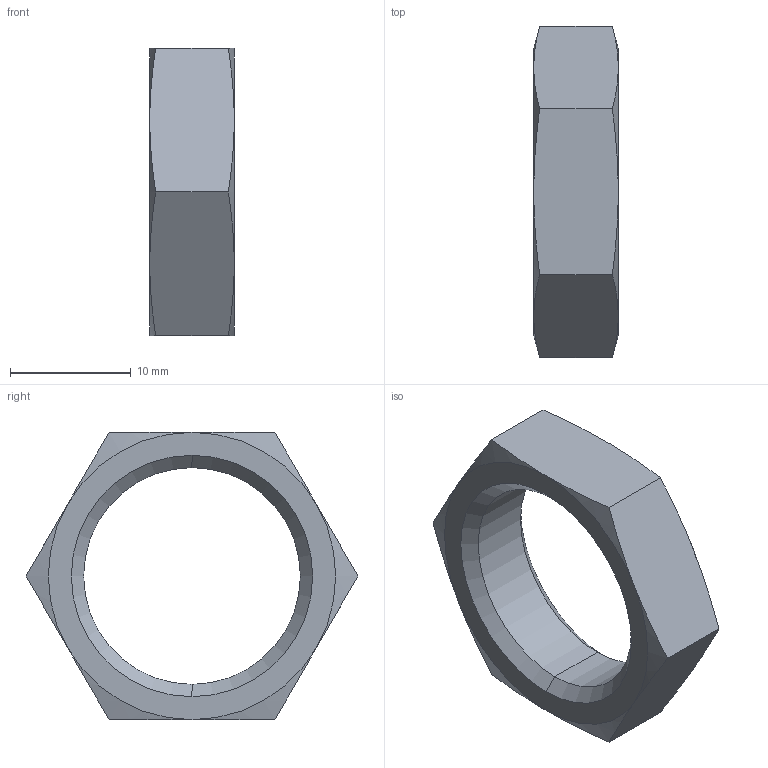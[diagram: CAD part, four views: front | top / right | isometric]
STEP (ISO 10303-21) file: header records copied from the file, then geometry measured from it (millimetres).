
FILE_DESCRIPTION (( 'STEP AP203' ), '1' );
FILE_NAME ('DNN08 SS.STEP', '2009-09-08T08:22:50', ( ' ' ), ( '' ), 'SwSTEP 2.0', 'SolidWorks 2008', '' );
FILE_SCHEMA (( 'CONFIG_CONTROL_DESIGN' ));
Length unit declared in the file: millimetre
Products named in the file (1): DNN08 SS
Bounding box: 7 x 27.49 x 23.81 mm (x, y, z)
Volume: 1589.1 mm3; surface area: 1358.2 mm2
Topology: 1 solids, 1 shells, 26 faces, 56 edges, 32 vertices
Faces by surface type: cone 16, plane 8, cylinder 2
Entity records: 845 total; most frequent: CARTESIAN_POINT 235, ORIENTED_EDGE 112, DIRECTION 106, EDGE_CURVE 56, AXIS2_PLACEMENT_3D 47, VERTEX_POINT 32, EDGE_LOOP 28, FACE_OUTER_BOUND 26
